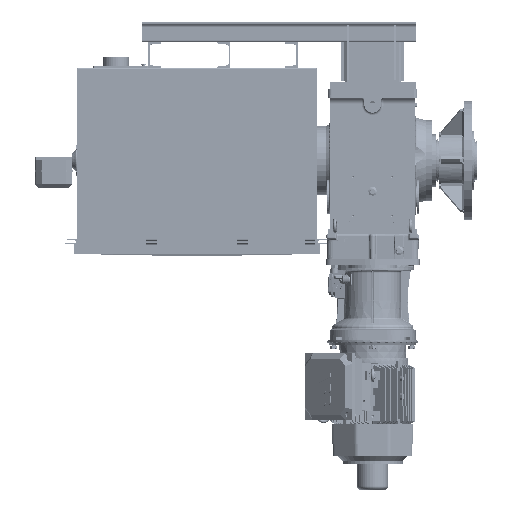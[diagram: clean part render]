
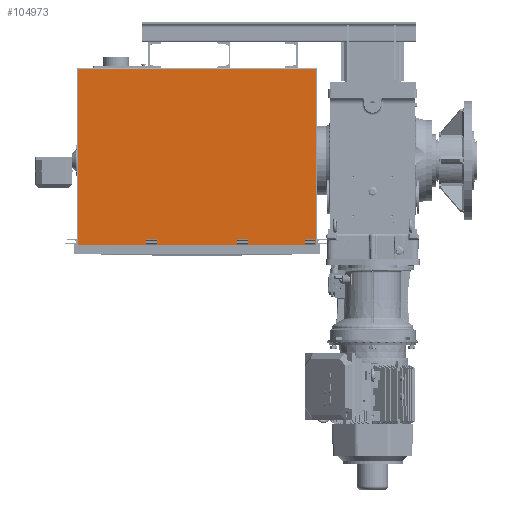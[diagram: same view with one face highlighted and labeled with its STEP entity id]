
A CAD part, top view. The second image highlights one B-rep face of the part: STEP entity #104973.
In plain terms, the highlighted planar face has unit normal (0, 0, 1).
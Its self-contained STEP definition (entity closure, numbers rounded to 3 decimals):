
#10458=LINE('',#193985,#17810);
#10475=LINE('',#194030,#17827);
#10477=LINE('',#194034,#17829);
#10478=LINE('',#194036,#17830);
#10479=LINE('',#194045,#17831);
#10496=LINE('',#194090,#17848);
#10498=LINE('',#194094,#17850);
#10499=LINE('',#194096,#17851);
#10500=LINE('',#194105,#17852);
#10517=LINE('',#194150,#17869);
#10519=LINE('',#194154,#17871);
#10520=LINE('',#194156,#17872);
#10775=LINE('',#194889,#18127);
#10778=LINE('',#194895,#18130);
#10781=LINE('',#194902,#18133);
#10784=LINE('',#194906,#18136);
#10790=LINE('',#194918,#18142);
#10792=LINE('',#194922,#18144);
#10794=LINE('',#194925,#18146);
#10795=LINE('',#194928,#18147);
#10796=LINE('',#194930,#18148);
#10797=LINE('',#194931,#18149);
#10798=LINE('',#194933,#18150);
#10799=LINE('',#194934,#18151);
#17810=VECTOR('',#138548,40.);
#17827=VECTOR('',#138591,40.);
#17829=VECTOR('',#138595,40.);
#17830=VECTOR('',#138598,40.);
#17831=VECTOR('',#138607,40.);
#17848=VECTOR('',#138650,40.);
#17850=VECTOR('',#138654,40.);
#17851=VECTOR('',#138657,40.);
#17852=VECTOR('',#138666,40.);
#17869=VECTOR('',#138709,40.);
#17871=VECTOR('',#138713,40.);
#17872=VECTOR('',#138716,40.);
#18127=VECTOR('',#139447,865.);
#18130=VECTOR('',#139452,0.992);
#18133=VECTOR('',#139457,2.976);
#18136=VECTOR('',#139462,1.984);
#18142=VECTOR('',#139472,2.976);
#18144=VECTOR('',#139476,0.992);
#18146=VECTOR('',#139480,1.984);
#18147=VECTOR('',#139483,23.016);
#18148=VECTOR('',#139484,699.016);
#18149=VECTOR('',#139485,915.);
#18150=VECTOR('',#139486,699.016);
#18151=VECTOR('',#139487,23.016);
#21297=PLANE('',#114300);
#22866=FACE_BOUND('',#35434,.T.);
#22867=FACE_BOUND('',#35435,.T.);
#22868=FACE_BOUND('',#35436,.T.);
#28355=FACE_OUTER_BOUND('',#35433,.T.);
#35433=EDGE_LOOP('',(#89679,#89680,#89681,#89682,#89683,#89684,#89685,#89686,
#89687,#89688,#89689,#89690));
#35434=EDGE_LOOP('',(#89691,#89692,#89693,#89694));
#35435=EDGE_LOOP('',(#89695,#89696,#89697,#89698));
#35436=EDGE_LOOP('',(#89699,#89700,#89701,#89702));
#48617=VERTEX_POINT('',#193983);
#48618=VERTEX_POINT('',#193984);
#48633=VERTEX_POINT('',#194028);
#48634=VERTEX_POINT('',#194032);
#48637=VERTEX_POINT('',#194043);
#48638=VERTEX_POINT('',#194044);
#48653=VERTEX_POINT('',#194088);
#48654=VERTEX_POINT('',#194092);
#48657=VERTEX_POINT('',#194103);
#48658=VERTEX_POINT('',#194104);
#48673=VERTEX_POINT('',#194148);
#48674=VERTEX_POINT('',#194152);
#48821=VERTEX_POINT('',#194589);
#48913=VERTEX_POINT('',#194881);
#48914=VERTEX_POINT('',#194885);
#48916=VERTEX_POINT('',#194893);
#48918=VERTEX_POINT('',#194899);
#48919=VERTEX_POINT('',#194901);
#48922=VERTEX_POINT('',#194915);
#48923=VERTEX_POINT('',#194917);
#48924=VERTEX_POINT('',#194921);
#48925=VERTEX_POINT('',#194927);
#48926=VERTEX_POINT('',#194929);
#48927=VERTEX_POINT('',#194932);
#62214=EDGE_CURVE('',#48617,#48618,#10458,.T.);
#62237=EDGE_CURVE('',#48618,#48633,#10475,.T.);
#62239=EDGE_CURVE('',#48634,#48617,#10477,.T.);
#62240=EDGE_CURVE('',#48633,#48634,#10478,.T.);
#62243=EDGE_CURVE('',#48637,#48638,#10479,.T.);
#62266=EDGE_CURVE('',#48638,#48653,#10496,.T.);
#62268=EDGE_CURVE('',#48654,#48637,#10498,.T.);
#62269=EDGE_CURVE('',#48653,#48654,#10499,.T.);
#62272=EDGE_CURVE('',#48657,#48658,#10500,.T.);
#62295=EDGE_CURVE('',#48658,#48673,#10517,.T.);
#62297=EDGE_CURVE('',#48674,#48657,#10519,.T.);
#62298=EDGE_CURVE('',#48673,#48674,#10520,.T.);
#62654=EDGE_CURVE('',#48913,#48914,#10775,.T.);
#62657=EDGE_CURVE('',#48914,#48916,#10778,.T.);
#62660=EDGE_CURVE('',#48919,#48918,#10781,.T.);
#62663=EDGE_CURVE('',#48916,#48919,#10784,.T.);
#62669=EDGE_CURVE('',#48923,#48922,#10790,.T.);
#62671=EDGE_CURVE('',#48924,#48913,#10792,.T.);
#62673=EDGE_CURVE('',#48922,#48924,#10794,.T.);
#62674=EDGE_CURVE('',#48925,#48918,#10795,.T.);
#62675=EDGE_CURVE('',#48926,#48925,#10796,.T.);
#62676=EDGE_CURVE('',#48926,#48821,#10797,.T.);
#62677=EDGE_CURVE('',#48927,#48821,#10798,.T.);
#62678=EDGE_CURVE('',#48923,#48927,#10799,.T.);
#89679=ORIENTED_EDGE('',*,*,#62660,.T.);
#89680=ORIENTED_EDGE('',*,*,#62674,.F.);
#89681=ORIENTED_EDGE('',*,*,#62675,.F.);
#89682=ORIENTED_EDGE('',*,*,#62676,.T.);
#89683=ORIENTED_EDGE('',*,*,#62677,.F.);
#89684=ORIENTED_EDGE('',*,*,#62678,.F.);
#89685=ORIENTED_EDGE('',*,*,#62669,.T.);
#89686=ORIENTED_EDGE('',*,*,#62673,.T.);
#89687=ORIENTED_EDGE('',*,*,#62671,.T.);
#89688=ORIENTED_EDGE('',*,*,#62654,.T.);
#89689=ORIENTED_EDGE('',*,*,#62657,.T.);
#89690=ORIENTED_EDGE('',*,*,#62663,.T.);
#89691=ORIENTED_EDGE('',*,*,#62214,.T.);
#89692=ORIENTED_EDGE('',*,*,#62237,.T.);
#89693=ORIENTED_EDGE('',*,*,#62240,.T.);
#89694=ORIENTED_EDGE('',*,*,#62239,.T.);
#89695=ORIENTED_EDGE('',*,*,#62243,.T.);
#89696=ORIENTED_EDGE('',*,*,#62266,.T.);
#89697=ORIENTED_EDGE('',*,*,#62269,.T.);
#89698=ORIENTED_EDGE('',*,*,#62268,.T.);
#89699=ORIENTED_EDGE('',*,*,#62272,.T.);
#89700=ORIENTED_EDGE('',*,*,#62295,.T.);
#89701=ORIENTED_EDGE('',*,*,#62298,.T.);
#89702=ORIENTED_EDGE('',*,*,#62297,.T.);
#104973=ADVANCED_FACE('',(#28355,#22866,#22867,#22868),#21297,.F.);
#114300=AXIS2_PLACEMENT_3D('',#194926,#139481,#139482);
#138548=DIRECTION('',(0.,1.,0.));
#138591=DIRECTION('',(1.,0.,0.));
#138595=DIRECTION('',(-1.,0.,0.));
#138598=DIRECTION('',(0.,-1.,0.));
#138607=DIRECTION('',(0.,1.,0.));
#138650=DIRECTION('',(1.,0.,0.));
#138654=DIRECTION('',(-1.,0.,0.));
#138657=DIRECTION('',(0.,-1.,0.));
#138666=DIRECTION('',(0.,1.,0.));
#138709=DIRECTION('',(1.,0.,0.));
#138713=DIRECTION('',(-1.,0.,0.));
#138716=DIRECTION('',(0.,-1.,0.));
#139447=DIRECTION('',(1.,0.,0.));
#139452=DIRECTION('',(0.,1.,0.));
#139457=DIRECTION('',(0.,-1.,0.));
#139462=DIRECTION('',(1.,0.,0.));
#139472=DIRECTION('',(0.,1.,0.));
#139476=DIRECTION('',(0.,-1.,0.));
#139480=DIRECTION('',(1.,0.,0.));
#139481=DIRECTION('center_axis',(0.,0.,
-1.));
#139482=DIRECTION('ref_axis',(1.,0.,0.));
#139483=DIRECTION('',(-1.,0.,0.));
#139484=DIRECTION('',(0.,-1.,0.));
#139485=DIRECTION('',(-1.,0.,0.));
#139486=DIRECTION('',(0.,1.,0.));
#139487=DIRECTION('',(-1.,0.,0.));
#193983=CARTESIAN_POINT('',(-387.982,-551.817,774.738));
#193984=CARTESIAN_POINT('',(-387.982,-511.817,774.738));
#193985=CARTESIAN_POINT('',(-387.982,-364.737,774.738));
#194028=CARTESIAN_POINT('',(-347.982,-511.817,774.738));
#194030=CARTESIAN_POINT('',(-585.482,-511.817,774.738));
#194032=CARTESIAN_POINT('',(-347.982,-551.817,774.738));
#194034=CARTESIAN_POINT('',(-585.482,-551.817,774.738));
#194036=CARTESIAN_POINT('',(-347.982,-364.737,774.738));
#194043=CARTESIAN_POINT('',(-997.982,-551.817,774.738));
#194044=CARTESIAN_POINT('',(-997.982,-511.817,774.738));
#194045=CARTESIAN_POINT('',(-997.982,-364.737,774.738));
#194088=CARTESIAN_POINT('',(-957.982,-511.817,774.738));
#194090=CARTESIAN_POINT('',(-890.482,-511.817,774.738));
#194092=CARTESIAN_POINT('',(-957.982,-551.817,774.738));
#194094=CARTESIAN_POINT('',(-890.482,-551.817,774.738));
#194096=CARTESIAN_POINT('',(-957.982,-364.737,774.738));
#194103=CARTESIAN_POINT('',(-647.982,-551.817,774.738));
#194104=CARTESIAN_POINT('',(-647.982,-511.817,774.738));
#194105=CARTESIAN_POINT('',(-647.982,-364.737,774.738));
#194148=CARTESIAN_POINT('',(-607.982,-511.817,774.738));
#194150=CARTESIAN_POINT('',(-715.482,-511.817,774.738));
#194152=CARTESIAN_POINT('',(-607.982,-551.817,774.738));
#194154=CARTESIAN_POINT('',(-715.482,-551.817,774.738));
#194156=CARTESIAN_POINT('',(-607.982,-364.737,774.738));
#194589=CARTESIAN_POINT('',(-1260.482,141.483,774.738));
#194881=CARTESIAN_POINT('',(-1235.482,-555.55,774.738));
#194885=CARTESIAN_POINT('',(-370.482,-555.55,774.738));
#194889=CARTESIAN_POINT('',(-586.732,-555.55,774.738));
#194893=CARTESIAN_POINT('',(-370.482,-554.558,774.738));
#194895=CARTESIAN_POINT('',(-370.482,-380.17,774.738));
#194899=CARTESIAN_POINT('',(-368.498,-557.534,774.738));
#194901=CARTESIAN_POINT('',(-368.498,-554.558,774.738));
#194902=CARTESIAN_POINT('',(-368.498,-381.658,774.738));
#194906=CARTESIAN_POINT('',(-585.74,-554.558,774.738));
#194915=CARTESIAN_POINT('',(-1237.466,-554.558,774.738));
#194917=CARTESIAN_POINT('',(-1237.466,-557.534,774.738));
#194918=CARTESIAN_POINT('',(-1237.466,-380.17,774.738));
#194921=CARTESIAN_POINT('',(-1235.482,-554.558,774.738));
#194922=CARTESIAN_POINT('',(-1235.482,-381.658,774.738));
#194925=CARTESIAN_POINT('',(-1019.232,-554.558,774.738));
#194926=CARTESIAN_POINT('Origin',(-802.982,-205.782,774.738));
#194927=CARTESIAN_POINT('',(-345.482,-557.534,774.738));
#194928=CARTESIAN_POINT('',(-345.482,-557.534,774.738));
#194929=CARTESIAN_POINT('',(-345.482,141.483,774.738));
#194930=CARTESIAN_POINT('',(-345.482,141.483,774.738));
#194931=CARTESIAN_POINT('',(-802.982,141.483,774.738));
#194932=CARTESIAN_POINT('',(-1260.482,-557.534,774.738));
#194933=CARTESIAN_POINT('',(-1260.482,150.457,774.738));
#194934=CARTESIAN_POINT('',(-345.482,-557.534,774.738));
